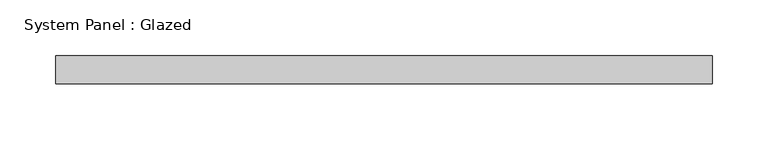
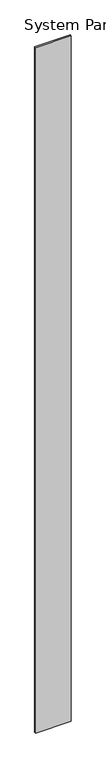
"""IFC4 building model written with IfcOpenShell, lengths in millimetres: plate geometry, System Panel : Glazed."""

import ifcopenshell
import ifcopenshell.guid

model = None  # the IFC model being written
_history = None  # IfcOwnerHistory: only IFC2X3 demands one
_inside = {}  # id of a spatial element -> (the spatial element, [elements in it])
_under = {}  # id of a project, library or spatial element -> (it, [spatial elements below it])
_declared = {}  # id of a project -> (the project, [libraries it declares])
_typed = {}  # id of a type object -> (the type object, [elements of that type])
_made_of = {}  # id of a material, layer set ... -> (it, [elements and type objects made of it])


def new_model(schema):
    """Start an empty IFC model of exactly this schema.

    Asked for "IFC4X3", IfcOpenShell would pick the latest addendum, in which some entities
    have other attributes; the version numbers below select the first issue.
    IFC2X3 requires an IfcOwnerHistory on every rooted entity: one is made here for all.
    """
    global model, _history
    if schema == "IFC4X3":
        model = ifcopenshell.file(schema_version=(4, 3, 0, 0))
    else:
        model = ifcopenshell.file(schema=schema)
    _inside.clear()
    _under.clear()
    _declared.clear()
    _typed.clear()
    _made_of.clear()
    _history = None
    if model.schema == "IFC2X3":
        org = make("IfcOrganization", Name="unknown")
        user = make(
            "IfcPersonAndOrganization",
            ThePerson=make("IfcPerson", FamilyName="unknown"),
            TheOrganization=org,
        )
        app = make(
            "IfcApplication",
            ApplicationDeveloper=org,
            Version="unknown",
            ApplicationFullName="unknown",
            ApplicationIdentifier="unknown",
        )
        _history = make(
            "IfcOwnerHistory",
            OwningUser=user,
            OwningApplication=app,
            ChangeAction="ADDED",
            CreationDate=0,
        )
    return model


def make(cls, **values):
    """One entity of the class cls with the attributes given. An attribute that is None is left unset."""
    return model.create_entity(
        cls, **{name: value for name, value in values.items() if value is not None}
    )


def rooted(cls, **values):
    """An entity with a GlobalId (a new one), such as an element, a storey or a relation."""
    return make(cls, GlobalId=ifcopenshell.guid.new(), OwnerHistory=_history, **values)


def si_unit(unit_type, name, prefix=None):
    """IfcSIUnit, for example si_unit("LENGTHUNIT", "METRE", prefix="MILLI")."""
    return make("IfcSIUnit", UnitType=unit_type, Prefix=prefix, Name=name)


def assignment(units):
    """IfcUnitAssignment: the units of a project."""
    return None if units is None else make("IfcUnitAssignment", Units=units)


def point(xyz):
    """IfcCartesianPoint."""
    return None if xyz is None else make("IfcCartesianPoint", Coordinates=xyz)


def direction(xyz):
    """IfcDirection."""
    return None if xyz is None else make("IfcDirection", DirectionRatios=xyz)


def frame(location, z_axis=None, x_axis=None):
    """IfcAxis2Placement3D, a coordinate frame: its origin and axes. An axis left out is left unset."""
    return make(
        "IfcAxis2Placement3D",
        Location=point(location),
        Axis=direction(z_axis),
        RefDirection=direction(x_axis),
    )


def origin():
    """The frame at (0, 0, 0) with its axes left unset."""
    return frame((0.0, 0.0, 0.0))


def origin_with_axes():
    """The frame at (0, 0, 0) with the z axis (0, 0, 1) and the x axis (1, 0, 0) written out."""
    return frame((0.0, 0.0, 0.0), z_axis=(0.0, 0.0, 1.0), x_axis=(1.0, 0.0, 0.0))


def place(relative_to, where):
    """IfcLocalPlacement: puts the frame where relative to a parent placement (None: the world)."""
    return make(
        "IfcLocalPlacement", PlacementRelTo=relative_to, RelativePlacement=where
    )


def context(
    kind, dimensions, precision=None, world=None, true_north=None, identifier=None
):
    """IfcGeometricRepresentationContext, for example the 3D "Model" context."""
    return make(
        "IfcGeometricRepresentationContext",
        ContextIdentifier=identifier,
        ContextType=kind,
        CoordinateSpaceDimension=dimensions,
        Precision=precision,
        WorldCoordinateSystem=world,
        TrueNorth=true_north,
    )


def project(units=None, contexts=None):
    """IfcProject with its units and contexts."""
    return rooted(
        "IfcProject",
        Name="project",
        RepresentationContexts=contexts,
        UnitsInContext=assignment(units),
    )


def spatial(cls, under=None, at=None, **own):
    """A site, building, storey or space (cls), placed at a placement, below another one or the project."""
    s = rooted(cls, ObjectPlacement=at, **own)
    if under is not None:
        _under.setdefault(under.id(), (under, []))[1].append(s)
    return s


def polyline(points):
    """IfcPolyline through the points."""
    return make("IfcPolyline", Points=[point(p) for p in points])


def outline(outer, holes=None, kind="AREA"):
    """IfcArbitraryClosedProfileDef: a profile drawn as a closed curve; with holes, ...WithVoids."""
    if holes is None:
        return make("IfcArbitraryClosedProfileDef", ProfileType=kind, OuterCurve=outer)
    return make(
        "IfcArbitraryProfileDefWithVoids",
        ProfileType=kind,
        OuterCurve=outer,
        InnerCurves=holes,
    )


def extrude(swept, where, along, depth):
    """IfcExtrudedAreaSolid: the profile swept, set in the frame where, extruded along a direction by depth."""
    return make(
        "IfcExtrudedAreaSolid",
        SweptArea=swept,
        Position=where,
        ExtrudedDirection=direction(along),
        Depth=depth,
    )


def shape(context_of_items, identifier, shape_type, items):
    """IfcShapeRepresentation: the items that make up one representation, for example the "Body"."""
    return make(
        "IfcShapeRepresentation",
        ContextOfItems=context_of_items,
        RepresentationIdentifier=identifier,
        RepresentationType=shape_type,
        Items=items,
    )


def source(mapping_origin, context_of_items, identifier, shape_type, items):
    """IfcRepresentationMap: a shape defined once, which mapped items show again and again."""
    return make(
        "IfcRepresentationMap",
        MappingOrigin=mapping_origin,
        MappedRepresentation=shape(context_of_items, identifier, shape_type, items),
    )


def transform(
    local_origin,
    x_axis=None,
    y_axis=None,
    z_axis=None,
    scale=None,
    scale2=None,
    scale3=None,
    uniform=True,
):
    """IfcCartesianTransformationOperator3D, or its non-uniform kind. x_axis, y_axis, z_axis: its Axis1, 2, 3."""
    if uniform:
        return make(
            "IfcCartesianTransformationOperator3D",
            Axis1=direction(x_axis),
            Axis2=direction(y_axis),
            LocalOrigin=point(local_origin),
            Scale=scale,
            Axis3=direction(z_axis),
        )
    return make(
        "IfcCartesianTransformationOperator3DnonUniform",
        Axis1=direction(x_axis),
        Axis2=direction(y_axis),
        LocalOrigin=point(local_origin),
        Scale=scale,
        Axis3=direction(z_axis),
        Scale2=scale2,
        Scale3=scale3,
    )


def mapped(mapping_source, mapping_target):
    """IfcMappedItem: shows the shape of a source again, moved by a transform."""
    return make(
        "IfcMappedItem", MappingSource=mapping_source, MappingTarget=mapping_target
    )


def made_of(thing, what):
    """Note that an element or type object is made of a material, layer set ...; save() writes the relation."""
    if what is not None:
        _made_of.setdefault(what.id(), (what, []))[1].append(thing)
    return thing


def element(
    cls,
    number,
    at=None,
    inside=None,
    cuts=None,
    type_object=None,
    material=None,
    context=None,
    identifier="Body",
    shape_type=None,
    held_by="IfcProductDefinitionShape",
    body=None,
    shapes=None,
    **own,
):
    """One element of the class cls, such as IfcWall. Its Tag is "e" and its number.

    at: its placement. inside: the storey or other place that contains it. cuts: it is an
    opening in that element (IfcRelVoidsElement). A single representation is given by context,
    identifier, shape_type and body (its items); several are given by shapes. held_by: the class
    of the entity that holds the representations. save() writes the other relations.
    """
    e = rooted(cls, Tag="e%d" % number, ObjectPlacement=at, **own)
    if body is not None:
        shapes = [shape(context, identifier, shape_type, body)]
    if shapes is not None:
        e.Representation = make(held_by, Representations=shapes)
    if inside is not None:
        _inside.setdefault(inside.id(), (inside, []))[1].append(e)
    if cuts is not None:
        rooted(
            "IfcRelVoidsElement", RelatingBuildingElement=cuts, RelatedOpeningElement=e
        )
    if type_object is not None:
        _typed.setdefault(type_object.id(), (type_object, []))[1].append(e)
    return made_of(e, material)


def aggregate(whole, parts):
    """IfcRelAggregates: a whole, such as a stair, and the parts it consists of."""
    return rooted("IfcRelAggregates", RelatingObject=whole, RelatedObjects=parts)


def save(model, path):
    """Write the relations noted so far, then the file.

    IfcRelAggregates (storeys below a building ...), IfcRelContainedInSpatialStructure (elements
    in a storey), IfcRelDefinesByType, IfcRelAssociatesMaterial and IfcRelDeclares: one each for
    every whole, place, type object, material and project.
    """
    for whole, parts in _under.values():
        aggregate(whole, parts)
    for where, things in _inside.values():
        rooted(
            "IfcRelContainedInSpatialStructure",
            RelatedElements=things,
            RelatingStructure=where,
        )
    for kind, things in _typed.values():
        rooted("IfcRelDefinesByType", RelatedObjects=things, RelatingType=kind)
    for what, things in _made_of.values():
        rooted("IfcRelAssociatesMaterial", RelatedObjects=things, RelatingMaterial=what)
    for by, libraries in _declared.values():
        rooted("IfcRelDeclares", RelatingContext=by, RelatedDefinitions=libraries)
    model.write(path)


def system_panel_glazed_27cd61de(model_context):
    return source(origin(), model_context, "Body", "SweptSolid", [
        extrude(outline(polyline([(294.9, -12.5), (-294.9, -12.5), (-294.9, 12.5), (294.9, 12.5), (294.9, -12.5)])), origin_with_axes(), (0.0, 0.0, 1.0), 12000.0),
    ])


if __name__ == "__main__":
    model = new_model("IFC4")
    model_context = context("Model", 3, world=origin())
    ifc_project = project(units=[si_unit("LENGTHUNIT", "METRE", prefix="MILLI")], contexts=[model_context])
    site = spatial("IfcSite", under=ifc_project)
    building = spatial("IfcBuilding", under=site)
    placement = place(None, origin())
    system_panel_glazed_shape = system_panel_glazed_27cd61de(model_context)
    element("IfcPlate", 1, ObjectType="System Panel : Glazed", at=placement, inside=building, context=model_context, shape_type="MappedRepresentation", body=[
        mapped(system_panel_glazed_shape, transform((0.0, 0.0, 0.0), x_axis=(1.0, 0.0, 0.0), y_axis=(0.0, 1.0, 0.0), z_axis=(0.0, 0.0, 1.0))),
    ])
    save(model, "model.ifc")
